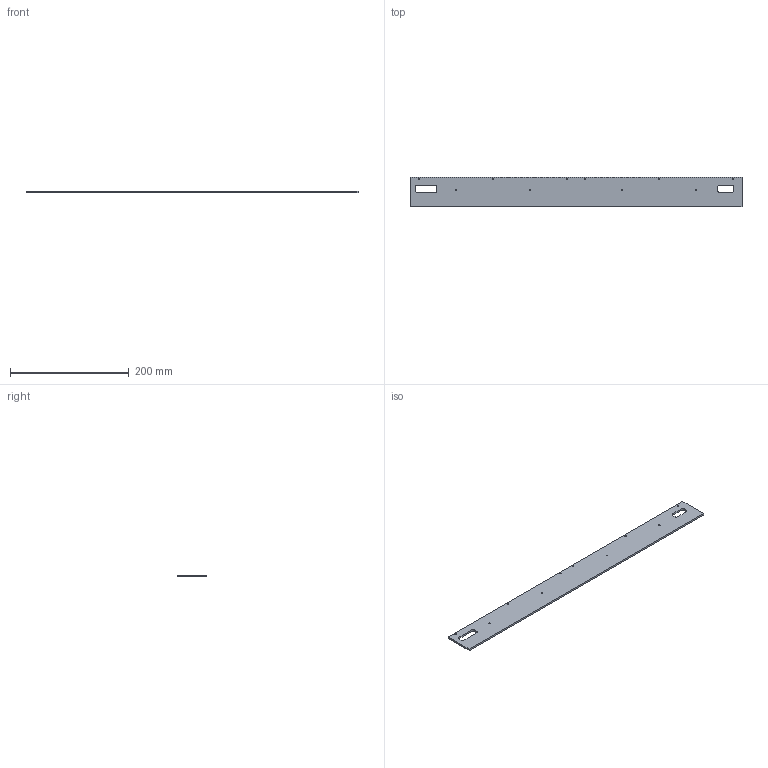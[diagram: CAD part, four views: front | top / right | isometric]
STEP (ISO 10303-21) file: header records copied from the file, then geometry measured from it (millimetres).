
FILE_DESCRIPTION (( 'STEP AP203' ), '1' );
FILE_NAME ('FIXTURE CUTOUTS FOR ARAYA AND BLANCO 2 FT.STEP', '2017-09-01T17:31:39', ( '' ), ( '' ), 'SwSTEP 2.0', 'SolidWorks 2017', '' );
FILE_SCHEMA (( 'CONFIG_CONTROL_DESIGN' ));
Length unit declared in the file: millimetre
Products named in the file (1): FIXTURE CUTOUTS FOR ARAYA AND BLANCO 2 FT
Bounding box: 560 x 50 x 3.17 mm (x, y, z)
Volume: 86381 mm3; surface area: 59059 mm2
Topology: 1 solids, 1 shells, 42 faces, 120 edges, 80 vertices
Faces by surface type: cylinder 28, plane 14
Entity records: 1525 total; most frequent: DIRECTION 262, CARTESIAN_POINT 243, ORIENTED_EDGE 240, EDGE_CURVE 120, AXIS2_PLACEMENT_3D 99, VERTEX_POINT 80, EDGE_LOOP 66, VECTOR 64
